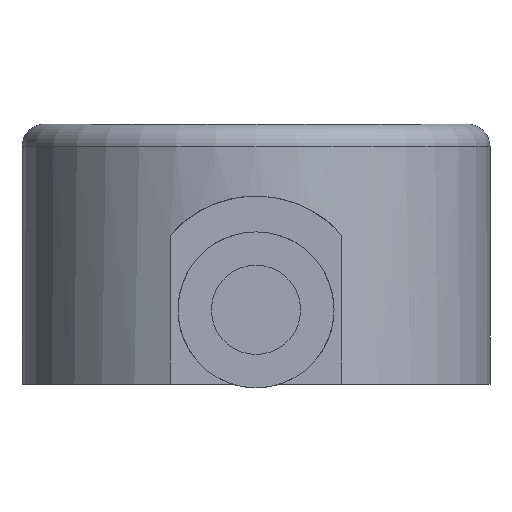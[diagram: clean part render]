
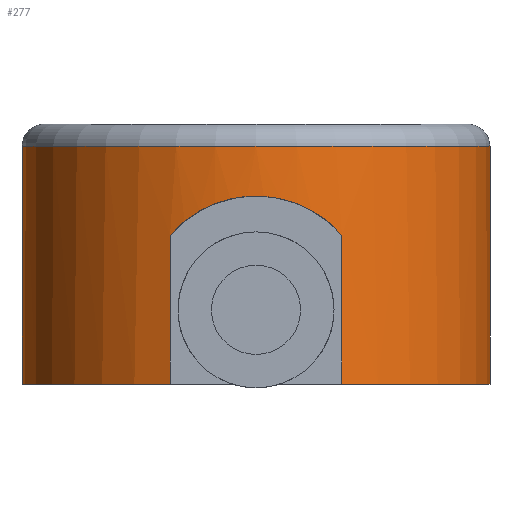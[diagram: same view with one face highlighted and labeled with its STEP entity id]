
A CAD part, front view. The second image highlights one B-rep face of the part: STEP entity #277.
In plain terms, the highlighted cylindrical face has radius 31.5 mm (diameter 63 mm), a partial arc.
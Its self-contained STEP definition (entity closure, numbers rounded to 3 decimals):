
#2 = LINE ( 'NONE', #375, #232 ) ;
#8 = VERTEX_POINT ( 'NONE', #177 ) ;
#19 = CARTESIAN_POINT ( 'NONE',  ( -11.565, -29.3, 20.052 ) ) ;
#22 = AXIS2_PLACEMENT_3D ( 'NONE', #457, #196, #194 ) ;
#23 = CARTESIAN_POINT ( 'NONE',  ( -4.399, -31.21, 24.72 ) ) ;
#25 = CARTESIAN_POINT ( 'NONE',  ( -7.399, -30.623, 23.43 ) ) ;
#27 = CARTESIAN_POINT ( 'NONE',  ( -8.782, -30.254, 22.568 ) ) ;
#29 = CARTESIAN_POINT ( 'NONE',  ( 1.086, -31.486, 25.295 ) ) ;
#39 = AXIS2_PLACEMENT_3D ( 'NONE', #441, #371, #145 ) ;
#41 = LINE ( 'NONE', #188, #390 ) ;
#46 = DIRECTION ( 'NONE',  ( 1., 0., 0. ) ) ;
#49 = CYLINDRICAL_SURFACE ( 'NONE', #22, 31.5 ) ;
#50 = ORIENTED_EDGE ( 'NONE', *, *, #82, .F. ) ;
#54 = CARTESIAN_POINT ( 'NONE',  ( 2.192, -31.429, 25.176 ) ) ;
#55 = VERTEX_POINT ( 'NONE', #218 ) ;
#56 = CIRCLE ( 'NONE', #209, 31.5 ) ;
#60 = CARTESIAN_POINT ( 'NONE',  ( -10.854, -29.581, 20.87 ) ) ;
#65 = VERTEX_POINT ( 'NONE', #220 ) ;
#74 = CARTESIAN_POINT ( 'NONE',  ( 31.5, 0., 0. ) ) ;
#82 = EDGE_CURVE ( 'NONE', #321, #140, #372, .T. ) ;
#95 = CARTESIAN_POINT ( 'NONE',  ( 8.317, -30.386, 22.881 ) ) ;
#98 = ORIENTED_EDGE ( 'NONE', *, *, #411, .T. ) ;
#100 = VERTEX_POINT ( 'NONE', #256 ) ;
#102 = DIRECTION ( 'NONE',  ( 0., 0., -1. ) ) ;
#106 = DIRECTION ( 'NONE',  ( 0., 0., -1. ) ) ;
#113 = VERTEX_POINT ( 'NONE', #74 ) ;
#115 = VECTOR ( 'NONE', #228, 1000. ) ;
#122 = CARTESIAN_POINT ( 'NONE',  ( 4.366, -31.215, 24.729 ) ) ;
#131 = CARTESIAN_POINT ( 'NONE',  ( 0., 0., 0. ) ) ;
#132 = ORIENTED_EDGE ( 'NONE', *, *, #185, .F. ) ;
#139 = EDGE_CURVE ( 'NONE', #8, #311, #2, .T. ) ;
#140 = VERTEX_POINT ( 'NONE', #337 ) ;
#145 = DIRECTION ( 'NONE',  ( 1., 0., 0. ) ) ;
#150 = EDGE_CURVE ( 'NONE', #65, #55, #403, .T. ) ;
#156 = ORIENTED_EDGE ( 'NONE', *, *, #455, .T. ) ;
#165 = CARTESIAN_POINT ( 'NONE',  ( -2.778, -31.382, 25.079 ) ) ;
#169 = CARTESIAN_POINT ( 'NONE',  ( 2.747, -31.385, 25.085 ) ) ;
#172 = CARTESIAN_POINT ( 'NONE',  ( 11.565, -29.3, 20.052 ) ) ;
#175 = ORIENTED_EDGE ( 'NONE', *, *, #150, .T. ) ;
#177 = CARTESIAN_POINT ( 'NONE',  ( 11.565, -29.3, 0. ) ) ;
#185 = EDGE_CURVE ( 'NONE', #100, #113, #41, .T. ) ;
#188 = CARTESIAN_POINT ( 'NONE',  ( 31.5, 0., 35. ) ) ;
#194 = DIRECTION ( 'NONE',  ( -1., 0., 0. ) ) ;
#196 = DIRECTION ( 'NONE',  ( 0., 0., -1. ) ) ;
#197 = EDGE_CURVE ( 'NONE', #100, #65, #56, .T. ) ;
#202 = CARTESIAN_POINT ( 'NONE',  ( -8.334, -30.381, 22.87 ) ) ;
#204 = B_SPLINE_CURVE_WITH_KNOTS ( 'NONE', 3,
 ( #19, #60, #313, #27, #202, #25, #359, #244, #23, #165, #251, #459, #397, #361, #29, #54, #169, #122, #316, #461, #427, #95, #320, #279, #407, #296 ),
 .UNSPECIFIED., .F., .F.,
 ( 4, 2, 2, 2, 2, 2, 2, 2, 2, 2, 2, 2, 4 ),
 ( 0., 0.003, 0.005, 0.007, 0.01, 0.012, 0.013, 0.015, 0.017, 0.02, 0.022, 0.023, 0.027 ),
 .UNSPECIFIED. ) ;
#209 = AXIS2_PLACEMENT_3D ( 'NONE', #439, #106, #46 ) ;
#218 = CARTESIAN_POINT ( 'NONE',  ( -31.5, 0., 0. ) ) ;
#220 = CARTESIAN_POINT ( 'NONE',  ( -31.5, 0., 32. ) ) ;
#228 = DIRECTION ( 'NONE',  ( 0., 0., -1. ) ) ;
#232 = VECTOR ( 'NONE', #443, 1000. ) ;
#242 = CARTESIAN_POINT ( 'NONE',  ( -11.565, -29.3, 20.052 ) ) ;
#244 = CARTESIAN_POINT ( 'NONE',  ( -5.432, -31.045, 24.369 ) ) ;
#251 = CARTESIAN_POINT ( 'NONE',  ( -2.223, -31.426, 25.171 ) ) ;
#255 = VECTOR ( 'NONE', #479, 1000. ) ;
#256 = CARTESIAN_POINT ( 'NONE',  ( 31.5, 0., 32. ) ) ;
#266 = EDGE_LOOP ( 'NONE', ( #132, #283, #175, #341, #50, #98, #425, #156 ) ) ;
#277 = ADVANCED_FACE ( 'NONE', ( #382 ), #49, .T. ) ;
#279 = CARTESIAN_POINT ( 'NONE',  ( 10.056, -29.865, 21.611 ) ) ;
#283 = ORIENTED_EDGE ( 'NONE', *, *, #197, .T. ) ;
#287 = DIRECTION ( 'NONE',  ( 1., 0., 0. ) ) ;
#296 = CARTESIAN_POINT ( 'NONE',  ( 11.565, -29.3, 20.052 ) ) ;
#311 = VERTEX_POINT ( 'NONE', #172 ) ;
#313 = CARTESIAN_POINT ( 'NONE',  ( -10.07, -29.861, 21.599 ) ) ;
#316 = CARTESIAN_POINT ( 'NONE',  ( 5.404, -31.05, 24.38 ) ) ;
#320 = CARTESIAN_POINT ( 'NONE',  ( 8.765, -30.259, 22.58 ) ) ;
#321 = VERTEX_POINT ( 'NONE', #242 ) ;
#322 = EDGE_CURVE ( 'NONE', #55, #140, #417, .T. ) ;
#337 = CARTESIAN_POINT ( 'NONE',  ( -11.565, -29.3, 0. ) ) ;
#341 = ORIENTED_EDGE ( 'NONE', *, *, #322, .T. ) ;
#359 = CARTESIAN_POINT ( 'NONE',  ( -6.913, -30.736, 23.686 ) ) ;
#361 = CARTESIAN_POINT ( 'NONE',  ( 0.534, -31.5, 25.324 ) ) ;
#368 = CARTESIAN_POINT ( 'NONE',  ( -31.5, 0., 35. ) ) ;
#371 = DIRECTION ( 'NONE',  ( 0., 0., 1. ) ) ;
#372 = LINE ( 'NONE', #483, #115 ) ;
#375 = CARTESIAN_POINT ( 'NONE',  ( 11.565, -29.3, 35. ) ) ;
#382 = FACE_OUTER_BOUND ( 'NONE', #266, .T. ) ;
#390 = VECTOR ( 'NONE', #102, 1000. ) ;
#395 = DIRECTION ( 'NONE',  ( 0., 0., 1. ) ) ;
#397 = CARTESIAN_POINT ( 'NONE',  ( -0.57, -31.5, 25.322 ) ) ;
#403 = LINE ( 'NONE', #368, #255 ) ;
#407 = CARTESIAN_POINT ( 'NONE',  ( 10.854, -29.581, 20.87 ) ) ;
#409 = CIRCLE ( 'NONE', #39, 31.5 ) ;
#411 = EDGE_CURVE ( 'NONE', #321, #311, #204, .T. ) ;
#417 = CIRCLE ( 'NONE', #464, 31.5 ) ;
#425 = ORIENTED_EDGE ( 'NONE', *, *, #139, .F. ) ;
#427 = CARTESIAN_POINT ( 'NONE',  ( 7.386, -30.626, 23.436 ) ) ;
#439 = CARTESIAN_POINT ( 'NONE',  ( 0., 0., 32. ) ) ;
#441 = CARTESIAN_POINT ( 'NONE',  ( 0., 0., 0. ) ) ;
#443 = DIRECTION ( 'NONE',  ( 0., 0., 1. ) ) ;
#455 = EDGE_CURVE ( 'NONE', #8, #113, #409, .T. ) ;
#457 = CARTESIAN_POINT ( 'NONE',  ( 0., 0., 35. ) ) ;
#459 = CARTESIAN_POINT ( 'NONE',  ( -1.121, -31.485, 25.292 ) ) ;
#461 = CARTESIAN_POINT ( 'NONE',  ( 6.901, -30.739, 23.692 ) ) ;
#464 = AXIS2_PLACEMENT_3D ( 'NONE', #131, #395, #287 ) ;
#479 = DIRECTION ( 'NONE',  ( 0., 0., -1. ) ) ;
#483 = CARTESIAN_POINT ( 'NONE',  ( -11.565, -29.3, 35. ) ) ;
